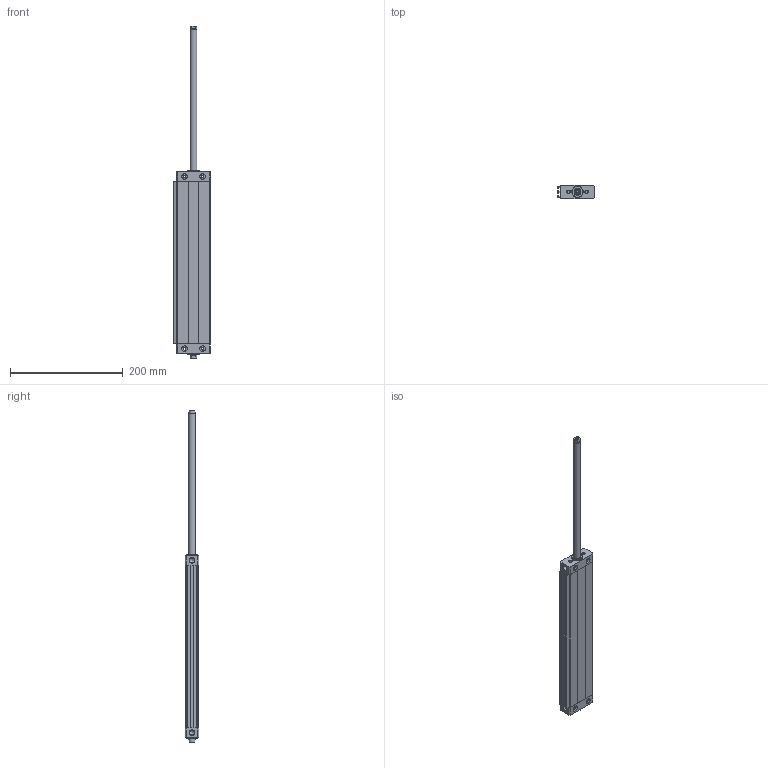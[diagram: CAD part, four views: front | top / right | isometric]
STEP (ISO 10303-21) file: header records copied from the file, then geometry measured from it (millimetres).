
FILE_DESCRIPTION((''),'2;1');
FILE_NAME('I:\Area Tecnica\Disegni\VARIE-3D\Componenti\1370 - CPO\1370_##_0000_03\1370_32_0250_03-01.iam.step','2010-12-16T10:55:34',(''),(''),'Autodesk Inventor 2011','Autodesk Inventor 2011','');
FILE_SCHEMA(('AUTOMOTIVE_DESIGN { 1 0 10303 214 1 1 1 1 }'));
Length unit declared in the file: millimetre
Products named in the file (5): 1370_32_0250_03-01; 1370_05_32_0000; 1370_06_32_0250; 1370_08_32_0000; 1370_3_32_0250
Assembly tree (4 placements, depth 2):
  1370_32_0250_03-01
    1370_05_32_0000
    1370_06_32_0250
    1370_08_32_0000
    1370_3_32_0250
Bounding box: 65.5 x 24 x 588 mm (x, y, z)
Volume: 303223.1 mm3; surface area: 136515.4 mm2
Topology: 4 solids, 4 shells, 164 faces, 392 edges, 250 vertices
Faces by surface type: plane 92, cylinder 48, cone 24
Full cylindrical faces by diameter (mm): 5 x12, 6.3 x2, 8.7 x2, 10 x8, 11.5 x2, 12 x4, 20 x2
Entity records: 4780 total; most frequent: DIRECTION 792, CARTESIAN_POINT 787, ORIENTED_EDGE 660, EDGE_CURVE 330, AXIS2_PLACEMENT_3D 297, EDGE_LOOP 252, VERTEX_POINT 240, VECTOR 198
